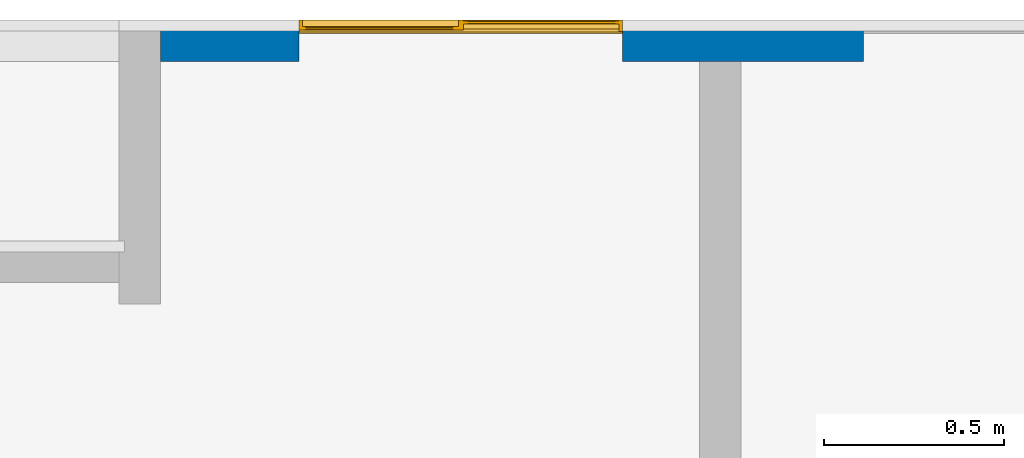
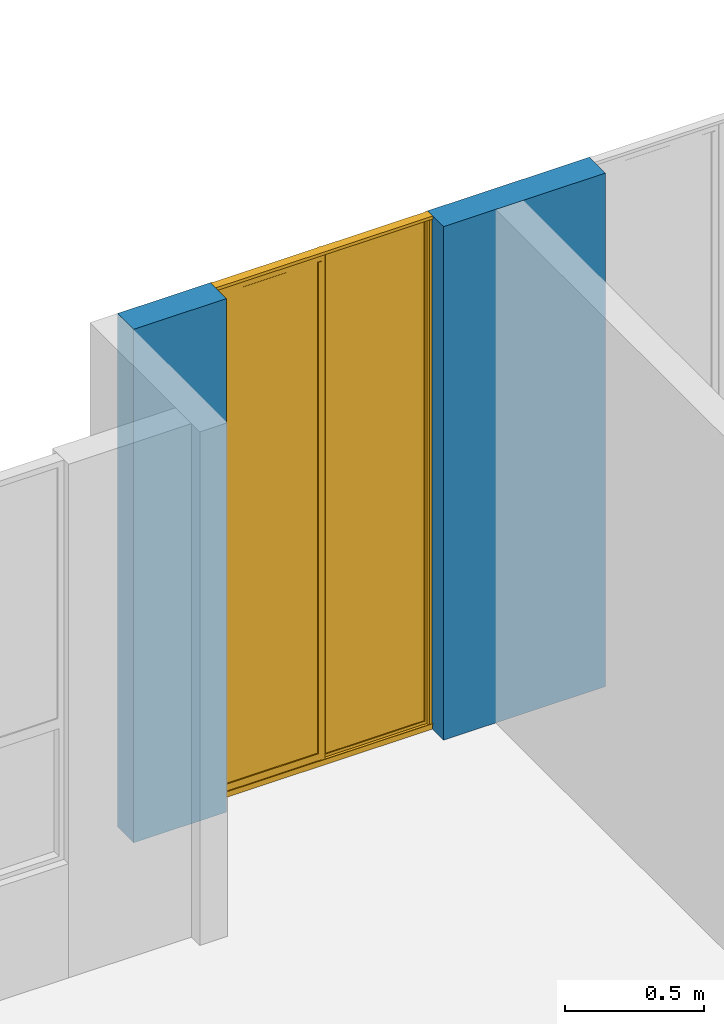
# One storey, part 25 of 51: 1 wall, 1 window, 2 openings.
"""IFC4 building model written with IfcOpenShell, lengths in metres."""

from ifc_helpers import new_model, entity, si_unit, converted_unit, derived_unit, direction, frame, origin, place, context, subcontext, project, spatial, indexed_curve, outline, extrude, polygons, source, transform, mapped, material, constituent, constituent_set, type_object, type_shapes, element, fill, save


model = new_model("IFC4")

# Units and contexts
model_context = context("Model", 3, precision=1e-05, world=origin(), true_north=direction((6.123031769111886e-17, 1.0)))
body_context = subcontext(model_context, "Body", "Model", "MODEL_VIEW")
ifc_project = project(units=[si_unit("LENGTHUNIT", "METRE"), si_unit("AREAUNIT", "SQUARE_METRE"), si_unit("VOLUMEUNIT", "CUBIC_METRE"), converted_unit("PLANEANGLEUNIT", "DEGREE", entity("IfcRatioMeasure", 0.017453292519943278), si_unit("PLANEANGLEUNIT", "RADIAN"), dimensions=[0, 0, 0, 0, 0, 0, 0]), si_unit("MASSUNIT", "GRAM", prefix="KILO"), derived_unit("MASSDENSITYUNIT", [(si_unit("MASSUNIT", "GRAM", prefix="KILO"), 1), (si_unit("LENGTHUNIT", "METRE"), -3)]), derived_unit("IONCONCENTRATIONUNIT", [(si_unit("MASSUNIT", "GRAM", prefix="KILO"), 1), (si_unit("LENGTHUNIT", "METRE"), -3)]), derived_unit("MOMENTOFINERTIAUNIT", [(si_unit("LENGTHUNIT", "METRE"), 4)]), si_unit("TIMEUNIT", "SECOND"), si_unit("FREQUENCYUNIT", "HERTZ"), si_unit("THERMODYNAMICTEMPERATUREUNIT", "DEGREE_CELSIUS"), derived_unit("THERMALTRANSMITTANCEUNIT", [(si_unit("MASSUNIT", "GRAM", prefix="KILO"), 1), (si_unit("THERMODYNAMICTEMPERATUREUNIT", "KELVIN"), -1), (si_unit("TIMEUNIT", "SECOND"), -3)]), derived_unit("THERMALCONDUCTANCEUNIT", [(si_unit("MASSUNIT", "GRAM", prefix="KILO"), 1), (si_unit("THERMODYNAMICTEMPERATUREUNIT", "KELVIN"), -1), (si_unit("TIMEUNIT", "SECOND"), -3), (si_unit("LENGTHUNIT", "METRE"), 1)]), derived_unit("VOLUMETRICFLOWRATEUNIT", [(si_unit("LENGTHUNIT", "METRE"), 3), (si_unit("TIMEUNIT", "SECOND"), -1)]), derived_unit("MASSFLOWRATEUNIT", [(si_unit("MASSUNIT", "GRAM", prefix="KILO"), 1), (si_unit("TIMEUNIT", "SECOND"), -1)]), derived_unit("ROTATIONALFREQUENCYUNIT", [(si_unit("TIMEUNIT", "SECOND"), -1)]), si_unit("ELECTRICCURRENTUNIT", "AMPERE"), si_unit("ELECTRICVOLTAGEUNIT", "VOLT"), si_unit("POWERUNIT", "WATT"), si_unit("FORCEUNIT", "NEWTON", prefix="KILO"), si_unit("ILLUMINANCEUNIT", "LUX"), si_unit("LUMINOUSFLUXUNIT", "LUMEN"), si_unit("LUMINOUSINTENSITYUNIT", "CANDELA"), derived_unit("USERDEFINED", [(si_unit("MASSUNIT", "GRAM", prefix="KILO"), -1), (si_unit("LENGTHUNIT", "METRE"), -2), (si_unit("TIMEUNIT", "SECOND"), 3), (si_unit("LUMINOUSFLUXUNIT", "LUMEN"), 1)]), derived_unit("USERDEFINED", [(si_unit("MASSUNIT", "GRAM", prefix="KILO"), 1), (si_unit("TIMEUNIT", "SECOND"), -3), (si_unit("LENGTHUNIT", "METRE"), 3), (si_unit("ELECTRICCURRENTUNIT", "AMPERE"), -2)]), derived_unit("SOUNDPOWERUNIT", [(si_unit("MASSUNIT", "GRAM", prefix="KILO"), 1), (si_unit("TIMEUNIT", "SECOND"), -3), (si_unit("LENGTHUNIT", "METRE"), 2)]), derived_unit("SOUNDPRESSUREUNIT", [(si_unit("MASSUNIT", "GRAM", prefix="KILO"), 1), (si_unit("LENGTHUNIT", "METRE"), -1), (si_unit("TIMEUNIT", "SECOND"), -2)]), derived_unit("LINEARVELOCITYUNIT", [(si_unit("LENGTHUNIT", "METRE"), 1), (si_unit("TIMEUNIT", "SECOND"), -1)]), si_unit("PRESSUREUNIT", "PASCAL"), derived_unit("USERDEFINED", [(si_unit("MASSUNIT", "GRAM", prefix="KILO"), 1), (si_unit("LENGTHUNIT", "METRE"), -2), (si_unit("TIMEUNIT", "SECOND"), -2)]), derived_unit("LINEARFORCEUNIT", [(si_unit("MASSUNIT", "GRAM", prefix="KILO"), 1), (si_unit("TIMEUNIT", "SECOND"), -2)]), derived_unit("PLANARFORCEUNIT", [(si_unit("MASSUNIT", "GRAM", prefix="KILO"), 1), (si_unit("LENGTHUNIT", "METRE"), -1), (si_unit("TIMEUNIT", "SECOND"), -2)]), derived_unit("SPECIFICHEATCAPACITYUNIT", [(si_unit("THERMODYNAMICTEMPERATUREUNIT", "KELVIN"), -1), (si_unit("LENGTHUNIT", "METRE"), 2), (si_unit("TIMEUNIT", "SECOND"), -2)]), derived_unit("HEATINGVALUEUNIT", [(si_unit("LENGTHUNIT", "METRE"), 2), (si_unit("TIMEUNIT", "SECOND"), -2)]), derived_unit("VAPORPERMEABILITYUNIT", [(si_unit("LENGTHUNIT", "METRE"), -1), (si_unit("TIMEUNIT", "SECOND"), 1)]), derived_unit("DYNAMICVISCOSITYUNIT", [(si_unit("MASSUNIT", "GRAM", prefix="KILO"), 1), (si_unit("TIMEUNIT", "SECOND"), -1), (si_unit("LENGTHUNIT", "METRE"), -1)]), derived_unit("THERMALEXPANSIONCOEFFICIENTUNIT", [(si_unit("THERMODYNAMICTEMPERATUREUNIT", "KELVIN"), -1)]), derived_unit("MODULUSOFELASTICITYUNIT", [(si_unit("MASSUNIT", "GRAM", prefix="KILO"), 1), (si_unit("LENGTHUNIT", "METRE"), -1), (si_unit("TIMEUNIT", "SECOND"), -2)]), derived_unit("ISOTHERMALMOISTURECAPACITYUNIT", [(si_unit("LENGTHUNIT", "METRE"), 3), (si_unit("MASSUNIT", "GRAM", prefix="KILO"), -1)]), derived_unit("MOISTUREDIFFUSIVITYUNIT", [(si_unit("TIMEUNIT", "SECOND"), -1), (si_unit("LENGTHUNIT", "METRE"), 2)])], contexts=[model_context])

# Site, building, storey
site_placement = place(None, origin())
site = spatial("IfcSite", under=ifc_project, at=site_placement, Name="Default", CompositionType="ELEMENT")
building_placement = place(site_placement, origin())
building = spatial("IfcBuilding", under=site, at=building_placement, CompositionType="ELEMENT")
storey_placement = place(building_placement, frame((0.0, 0.0, 2.350000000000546)))
storey = spatial("IfcBuildingStorey", under=building, at=storey_placement, Name="Nivel 2", CompositionType="ELEMENT", Elevation=2.350000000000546)

# Wall, openings, window
ifc_material_1 = material(Name="Ladrillo claro (Aire)", Category="Materials")
wall_type = type_object("IfcWallType", Name="Basic Wall:B2010 - 0.115m - Muro exterior en mampostería - Ladrillo", PredefinedType="STANDARD")
wall_placement = place(storey_placement, frame((12.577500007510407, -0.03750002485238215, 0.0)))
wall = element("IfcWall", 1, at=wall_placement, inside=storey, type_object=wall_type, material=ifc_material_1, Name="Basic Wall:B2010 - 0.115m - Muro exterior en mampostería - Ladrillo", ObjectType="Basic Wall:B2010 - 0.115m - Muro exterior en mampostería - Ladrillo", PredefinedType="NOTDEFINED", context=body_context, shape_type="Tessellation", body=[
    polygons([(0.38500000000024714, -0.0575, 2.250000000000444), (1.1388049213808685e-15, -0.05749999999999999, 2.250000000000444), (1.1388049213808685e-15, -0.05749999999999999, -5.414335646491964e-16), (0.38500000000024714, -0.0575, -5.414335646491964e-16), (-2.3974804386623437e-16, 0.0575, -5.414335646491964e-16), (0.3850000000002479, 0.0575, -5.414335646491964e-16), (0.3850000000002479, 0.05750000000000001, 2.250000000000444), (-2.397480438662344e-16, 0.05750000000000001, 2.250000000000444)], [[[1, 2, 3, 4]], [[3, 5, 6, 4]], [[2, 1, 7, 8]], [[3, 2, 8, 5]], [[1, 4, 6, 7]], [[5, 8, 7, 6]]], closed=True),
    polygons([(1.2850000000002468, 0.0575, -5.414335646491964e-16), (1.2850000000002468, 0.05749999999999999, 2.250000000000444), (1.9557999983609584, 0.05749999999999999, 2.250000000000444), (1.9557999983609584, 0.0575, -5.414335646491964e-16), (1.9557999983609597, -0.05749999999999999, 2.250000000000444), (1.9557999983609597, -0.05749999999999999, -5.414335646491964e-16), (1.285000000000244, -0.05749999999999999, -5.414335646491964e-16), (1.285000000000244, -0.05749999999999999, 2.250000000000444), (1.499999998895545, -0.05749999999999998, 2.250000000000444), (1.6149999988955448, -0.05749999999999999, 2.250000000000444), (1.6149999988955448, -0.05749999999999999, -2.707167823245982e-16), (1.499999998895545, -0.05749999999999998, -2.707167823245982e-16)], [[[1, 2, 3, 4]], [[5, 6, 4, 3]], [[7, 8, 2, 1]], [[2, 8, 9, 10, 5, 3]], [[7, 1, 4, 6, 11, 12]], [[8, 7, 12, 11, 6, 5, 10, 9]]], closed=True),
])
opening_1_placement = place(wall_placement, frame((1.2850000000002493, 0.057499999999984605, 0.0)))
opening_1 = element("IfcOpeningElement", 2, at=opening_1_placement, cuts=wall, Name="B2020 - Ventana corrediza 2C - Aluminio + Vidrio:B2020 - 0.90m x 2.25m - Ventana corrediza 2C - Aluminio + Vidrio:1", PredefinedType="OPENING", context=body_context, shape_type="SweptSolid", body=[
    extrude(outline(indexed_curve([(0.0, -1.3535839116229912e-16), (2.249999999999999, -1.3535839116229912e-16), (2.249999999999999, 0.8999999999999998), (0.0, 0.8999999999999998), (0.0, -1.3535839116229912e-16)], self_intersect=False)), frame((0.0, 0.0, 0.0), z_axis=(0.0, -1.0, 0.0), x_axis=(0.0, 0.0, 1.0)), (0.0, 0.0, 1.0), 0.115),
])
opening_2_placement = place(wall_placement, frame((2.9757999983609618, 0.05749999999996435, 0.0)))
element("IfcOpeningElement", 3, at=opening_2_placement, cuts=wall, Name="B2020 - Ventana corrediza 2C - Aluminio + Vidrio:B2020 - 1.02m x 2.25m - Ventana corrediza 2C - Aluminio + Vidrio:1", PredefinedType="OPENING", context=body_context, shape_type="SweptSolid", body=[
    extrude(outline(indexed_curve([(0.0, -3.129589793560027e-32), (2.249999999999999, -3.129589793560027e-32), (2.249999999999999, 1.0199999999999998), (0.0, 1.0199999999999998), (0.0, -3.129589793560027e-32)], self_intersect=False)), frame((0.0, 0.0, 0.0), z_axis=(0.0, -1.0, 0.0), x_axis=(0.0, 0.0, 1.0)), (0.0, 0.0, 1.0), 0.115),
])
ifc_material_2 = material(Name="Vidrio", Category="Materials")
ifc_constituent_1 = constituent(ifc_material_2, Name="Vidrio", Category="Materials")
ifc_material_3 = material(Name="<Unnamed>")
ifc_constituent_2 = constituent(ifc_material_3, Name="<Unnamed>")
ifc_constituent_set_1 = constituent_set(constituents=[ifc_constituent_1, ifc_constituent_2])
ifc_constituent_3 = constituent(ifc_material_2, Name="Vidrio", Category="Materials")
ifc_constituent_4 = constituent(ifc_material_3, Name="<Unnamed>")
ifc_constituent_set_2 = constituent_set(constituents=[ifc_constituent_3, ifc_constituent_4])
window_type = type_object("IfcWindowType", Name="B2020 - Ventana corrediza 2C - Aluminio + Vidrio:B2020 - 0.90m x 2.25m - Ventana corrediza 2C - Aluminio + Vidrio", PartitioningType="NOTDEFINED", PredefinedType="WINDOW", material=ifc_constituent_set_2)
shared_shape = source(origin(), body_context, "Body", "Tessellation", [
    polygons([(0.4701871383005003, 0.11311505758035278, 0.028641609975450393), (0.8800323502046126, 0.11311505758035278, 0.028641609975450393), (0.8800323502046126, 0.10801372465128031, 0.028641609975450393), (0.4701871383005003, 0.10801372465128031, 0.028641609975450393), (0.4701871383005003, 0.11311505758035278, 2.2347073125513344), (0.4701871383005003, 0.10801372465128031, 2.2347073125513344), (0.8800323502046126, 0.10801372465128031, 2.2347073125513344), (0.8800323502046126, 0.11311505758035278, 2.2347073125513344)], [[[1, 2, 3, 4]], [[5, 1, 4, 6]], [[6, 4, 3, 7]], [[7, 3, 2, 8]], [[8, 2, 1, 5]], [[5, 6, 7, 8]]], closed=True),
    polygons([(0.01884633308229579, 0.0962952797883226, 0.054189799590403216), (0.4282710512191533, 0.0962952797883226, 0.054189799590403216), (0.4282710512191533, 0.09199928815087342, 0.054189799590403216), (0.01884633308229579, 0.09199928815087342, 0.054189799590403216), (0.01884633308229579, 0.0962952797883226, 2.2043993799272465), (0.01884633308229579, 0.09199928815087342, 2.2043993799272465), (0.4282710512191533, 0.09199928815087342, 2.2043993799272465), (0.4282710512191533, 0.0962952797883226, 2.2043993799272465)], [[[1, 2, 3, 4]], [[5, 1, 4, 6]], [[6, 4, 3, 7]], [[7, 3, 2, 8]], [[8, 2, 1, 5]], [[5, 6, 7, 8]]], closed=True),
    polygons([(1.610764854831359e-14, 0.08248628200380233, 0.020380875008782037), (1.610764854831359e-14, 0.07981389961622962, 0.020380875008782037), (1.610764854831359e-14, 0.07981389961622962, 0.025674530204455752), (1.610764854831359e-14, 0.08106389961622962, 0.025674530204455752), (1.610764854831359e-14, 0.08106389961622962, 0.02163087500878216), (1.610764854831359e-14, 0.08373628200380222, 0.02163087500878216), (1.610764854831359e-14, 0.08373628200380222, 0.017447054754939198), (1.610764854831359e-14, 0.08932238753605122, 0.017447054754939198), (1.610764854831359e-14, 0.08932238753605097, 2.24863686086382), (1.5972290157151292e-14, 0.0810593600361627, 2.24863686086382), (1.5972290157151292e-14, 0.0810593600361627, 2.2365872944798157), (1.5972290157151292e-14, 0.07969622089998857, 2.2365872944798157), (1.5972290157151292e-14, 0.07969622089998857, 2.2499999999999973), (1.610764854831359e-14, 0.11748628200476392, 2.2499999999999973), (1.5972290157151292e-14, 0.1174862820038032, -2.5718094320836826e-15), (1.610764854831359e-14, 0.08248628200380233, -2.5718094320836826e-15), (0.900000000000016, 0.08248628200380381, 0.020380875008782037), (0.900000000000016, 0.08248628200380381, -2.5718094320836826e-15), (0.900000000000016, 0.11748628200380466, -2.5718094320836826e-15), (0.45664549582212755, 0.11748628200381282, 2.2499999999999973), (0.45664549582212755, 0.11748628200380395, 0.006176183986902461), (0.8900000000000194, 0.11748628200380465, 0.006176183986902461), (0.8900000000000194, 0.11748628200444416, 2.2499999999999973), (0.900000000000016, 0.11748628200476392, 2.2499999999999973), (0.009897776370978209, 0.11748628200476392, 2.2499999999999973), (0.009897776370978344, 0.1174862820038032, 0.006176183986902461), (0.4433545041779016, 0.11748628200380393, 0.006176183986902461), (0.4433545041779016, 0.11748628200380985, 2.2499999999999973), (0.016298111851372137, 0.0893223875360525, 2.2069861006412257), (0.4433545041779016, 0.0893223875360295, 2.2069861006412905), (0.4433545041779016, 0.08932238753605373, 2.2043993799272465), (0.430819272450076, 0.08932238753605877, 2.2043993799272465), (0.4308192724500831, 0.08932238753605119, 0.0519155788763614), (0.01629811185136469, 0.08932238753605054, 0.0519155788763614), (0.016298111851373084, 0.08932238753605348, 2.237270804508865), (0.01629811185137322, 0.08932238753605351, 2.24863686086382), (0.0037628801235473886, 0.08932238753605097, 0.017447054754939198), (0.0037628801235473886, 0.0893223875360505, 0.02163087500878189), (0.4433545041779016, 0.0893223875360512, 0.021630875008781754), (0.4433545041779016, 0.08932238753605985, 0.017447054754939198), (0.4580471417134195, 0.08932238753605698, 0.017447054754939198), (0.4580471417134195, 0.0893223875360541, 2.24863686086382), (0.4433545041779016, 0.08932238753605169, 2.24863686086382), (0.4433545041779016, 0.08932238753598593, 2.237270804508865), (0.900000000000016, 0.08373628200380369, 0.017447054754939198), (0.900000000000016, 0.08548628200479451, 0.017447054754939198), (0.8900000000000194, 0.08548628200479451, 0.017447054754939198), (0.8900000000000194, 0.09284764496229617, 0.017447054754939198), (0.4580471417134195, 0.09284764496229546, 0.017447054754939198), (0.4433545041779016, 0.09284764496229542, 0.017447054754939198), (0.0037628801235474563, 0.09284764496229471, 0.017447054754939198), (0.900000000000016, 0.08373628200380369, 0.02163087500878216), (0.900000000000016, 0.08106389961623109, 0.02163087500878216), (0.900000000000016, 0.08106389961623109, 0.025674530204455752), (0.900000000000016, 0.07981389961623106, 0.025674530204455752), (0.900000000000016, 0.07981389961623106, 0.020380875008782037), (0.01884290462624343, 0.09629339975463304, 0.054191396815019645), (0.4282772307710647, 0.09629080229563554, 0.054191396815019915), (0.4308192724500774, 0.09897218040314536, 0.051915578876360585), (0.016298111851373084, 0.09897218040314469, 0.051915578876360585), (0.01629811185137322, 0.09897218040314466, 2.237270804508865), (0.01629811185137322, 0.09897218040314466, 2.24863686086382), (0.018846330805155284, 0.0962732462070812, 2.24863686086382), (0.018846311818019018, 0.0962733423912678, 2.237270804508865), (0.430819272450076, 0.09897218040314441, 2.2043993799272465), (0.4433545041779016, 0.09897218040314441, 2.2043993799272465), (0.4433545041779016, 0.09897218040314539, 0.02163087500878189), (0.009897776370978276, 0.09897218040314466, 0.021630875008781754), (0.009897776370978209, 0.09897218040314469, 2.24863686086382), (0.4433545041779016, 0.09897218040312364, 2.237270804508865), (0.4433545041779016, 0.09897218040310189, 2.2069861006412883), (0.01629811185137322, 0.09897218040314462, 2.2069861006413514), (0.4282710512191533, 0.09628602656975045, 2.2043993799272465), (0.01884015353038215, 0.09200376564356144, 0.05419139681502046), (0.42827447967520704, 0.09200116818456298, 0.05419139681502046), (0.018846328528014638, 0.09202132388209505, 2.24863686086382), (0.01884629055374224, 0.09202124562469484, 2.237270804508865), (0.4282710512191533, 0.09200843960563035, 2.204399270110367), (0.4580471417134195, 0.09284764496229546, 0.011279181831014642), (0.4580471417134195, 0.09612320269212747, 0.010600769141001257), (0.4580471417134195, 0.09612320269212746, 0.014402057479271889), (0.4580471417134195, 0.10582811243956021, 0.014402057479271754), (0.4580471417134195, 0.1058281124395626, 2.24863686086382), (0.4433545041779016, 0.09199945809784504, 2.204399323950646), (0.0037628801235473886, 0.09897218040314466, 0.02163087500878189), (0.0037628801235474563, 0.09284764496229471, 0.011279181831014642), (0.0037628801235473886, 0.09897218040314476, 0.010010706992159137), (0.009897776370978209, 0.09897218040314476, 0.010010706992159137), (0.009897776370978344, 0.1153006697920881, 2.2499999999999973), (0.009897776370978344, 0.11530066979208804, 2.2369062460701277), (0.009897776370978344, 0.11310173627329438, 2.234707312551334), (0.009897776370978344, 0.1080270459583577, 2.234707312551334), (0.009897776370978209, 0.10582811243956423, 2.2369062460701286), (0.009897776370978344, 0.10582811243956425, 2.24863686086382), (0.900000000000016, 0.07969622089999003, 2.2499999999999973), (0.900000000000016, 0.07969622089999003, 2.2365872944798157), (0.900000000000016, 0.08105936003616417, 2.2365872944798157), (0.900000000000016, 0.08105936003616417, 2.24863686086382), (0.900000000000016, 0.08548628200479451, 2.24863686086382), (0.8900000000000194, 0.08548628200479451, 2.24863686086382), (0.8900000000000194, 0.09284764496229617, 0.011279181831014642), (0.8900000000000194, 0.10582811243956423, 2.24863686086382), (0.8900000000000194, 0.10582811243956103, 0.014402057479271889), (0.8900000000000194, 0.09612320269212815, 0.014402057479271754), (0.8900000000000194, 0.09612320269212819, 0.010600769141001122), (0.45664549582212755, 0.1153006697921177, 0.006628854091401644), (0.45664549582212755, 0.11530066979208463, 2.2499999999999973), (0.8900000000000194, 0.11530066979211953, 0.0066288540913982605), (0.8900000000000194, 0.11530066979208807, 2.2499999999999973), (0.4433545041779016, 0.11530066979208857, 2.2499999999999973), (0.4433545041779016, 0.1153006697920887, 2.2369062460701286), (0.4676389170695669, 0.11530066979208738, 0.026824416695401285), (0.46763891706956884, 0.11530066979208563, 2.236906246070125), (0.4701871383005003, 0.1131150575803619, 2.234713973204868), (0.4701871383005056, 0.11311505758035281, 0.028641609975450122), (0.8800323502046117, 0.11311505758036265, 0.028641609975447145), (0.8800323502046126, 0.11311505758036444, 2.2347139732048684), (0.8825805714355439, 0.11530066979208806, 2.236906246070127), (0.8825805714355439, 0.1153006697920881, 0.026824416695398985), (0.8800323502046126, 0.10801372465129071, 0.02864160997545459), (0.47018713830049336, 0.10801372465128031, 0.028641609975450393), (0.46763891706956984, 0.10582811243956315, 0.02682441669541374), (0.8825805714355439, 0.10582811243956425, 0.026824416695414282), (0.46763891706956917, 0.10582811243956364, 2.2369062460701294), (0.8825805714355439, 0.10582811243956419, 2.2369062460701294), (0.8800311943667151, 0.108016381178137, 2.2347113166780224), (0.47018829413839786, 0.10801638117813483, 2.234711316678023), (0.4433545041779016, 0.09629516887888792, 2.204399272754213), (0.018846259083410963, 0.09627365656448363, 2.204388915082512), (0.018844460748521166, 0.09201660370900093, 2.2043931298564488), (0.4433545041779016, 0.10582811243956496, 2.24863686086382), (0.4433545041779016, 0.10802704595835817, 2.2347073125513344), (0.4433545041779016, 0.10582811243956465, 2.2369062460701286), (0.4433545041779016, 0.11310173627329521, 2.2347073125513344), (0.4433545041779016, 0.09284764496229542, 0.011279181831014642)], [[[1, 2, 3, 4, 5, 6, 7, 8, 9, 10, 11, 12, 13, 14, 15, 16]], [[17, 1, 16, 18]], [[16, 15, 19, 18]], [[20, 21, 22, 23, 24, 19, 15, 14, 25, 26, 27, 28]], [[35, 36, 9, 8, 37, 38, 39, 40, 41, 42, 43, 44], [29, 30, 31, 32, 33, 34]], [[45, 46, 47, 48, 49, 41, 40, 50, 51, 37, 8, 7]], [[45, 7, 6, 52]], [[52, 6, 5, 53]], [[53, 5, 4, 54]], [[54, 4, 3, 55]], [[55, 3, 2, 56]], [[56, 2, 1, 17]], [[57, 58, 59, 60]], [[61, 62, 63, 64]], [[60, 59, 65, 66, 67, 68, 69, 62, 61, 70, 71, 72]], [[65, 59, 58, 73]], [[74, 75, 58, 57]], [[64, 63, 76, 77]], [[58, 75, 78, 73]], [[34, 33, 75, 74]], [[77, 76, 36, 35]], [[78, 75, 33, 32]], [[49, 79, 80, 81, 82, 83, 42, 41]], [[84, 31, 30]], [[39, 38, 85, 68, 67]], [[85, 38, 37, 51, 86, 87]], [[68, 85, 87, 88]], [[25, 89, 90, 91, 92, 93, 94, 69, 68, 88, 26]], [[17, 18, 19, 24, 95, 96, 97, 98, 99, 46, 45, 52, 53, 54, 55, 56]], [[46, 99, 100, 47]], [[49, 48, 101, 79]], [[47, 100, 102, 103, 104, 105, 101, 48]], [[79, 101, 105, 80]], [[106, 21, 20, 107]], [[23, 22, 108, 109]], [[110, 111, 90, 89]], [[80, 105, 104, 81]], [[112, 113, 114, 115]], [[116, 117, 118, 119]], [[119, 112, 115, 116]], [[120, 121, 122, 123]], [[103, 102, 83, 82], [122, 124, 125, 123]], [[123, 125, 126, 120]], [[121, 127, 124, 122]], [[81, 104, 103, 82]], [[120, 126, 117, 116]], [[116, 115, 121, 120]], [[115, 114, 127, 121]], [[13, 95, 24, 23, 109, 107, 20, 28, 110, 89, 25, 14]], [[72, 71, 128, 73, 129]], [[129, 73, 78, 130]], [[130, 78, 84, 30, 29]], [[77, 35, 44, 70, 61, 64]], [[31, 84, 78, 32]], [[97, 11, 10, 98]], [[96, 12, 11, 97]], [[95, 13, 12, 96]], [[118, 117, 114, 113]], [[127, 114, 117, 126]], [[124, 127, 126, 125]], [[10, 9, 36, 76, 63, 62, 69, 94, 131, 43, 42, 83, 102, 100, 99, 98]], [[132, 133, 93, 92]], [[134, 132, 92, 91]], [[111, 134, 91, 90]], [[73, 128, 66, 65]], [[133, 131, 94, 93]], [[109, 108, 106, 107], [112, 119, 118, 113]], [[106, 108, 22, 21]], [[27, 26, 88, 87, 86, 135]], [[135, 86, 51, 50]], [[27, 135, 50, 40, 39, 67, 66, 128, 71, 70, 44, 43, 131, 133, 132, 134, 111, 110, 28]], [[74, 130, 29, 34]], [[57, 129, 130, 74]], [[60, 72, 129, 57]]], closed=True),
])
type_shapes(window_type, [shared_shape])
window_placement = place(opening_1_placement, frame((-0.9000000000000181, -0.11748628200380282, 0.0)))
window = element("IfcWindow", 4, at=window_placement, inside=storey, type_object=window_type, material=ifc_constituent_set_1, Name="B2020 - Ventana corrediza 2C - Aluminio + Vidrio:B2020 - 0.90m x 2.25m - Ventana corrediza 2C - Aluminio + Vidrio", ObjectType="B2020 - Ventana corrediza 2C - Aluminio + Vidrio:B2020 - 0.90m x 2.25m - Ventana corrediza 2C - Aluminio + Vidrio", OverallHeight=2.249999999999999, OverallWidth=0.899999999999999, PartitioningType="NOTDEFINED", PredefinedType="WINDOW", context=body_context, shape_type="MappedRepresentation", body=[
    mapped(shared_shape, transform((0.0, 0.0, 0.0), scale=1.0)),
])
fill(opening_1, window)

save(model, "model.ifc")
